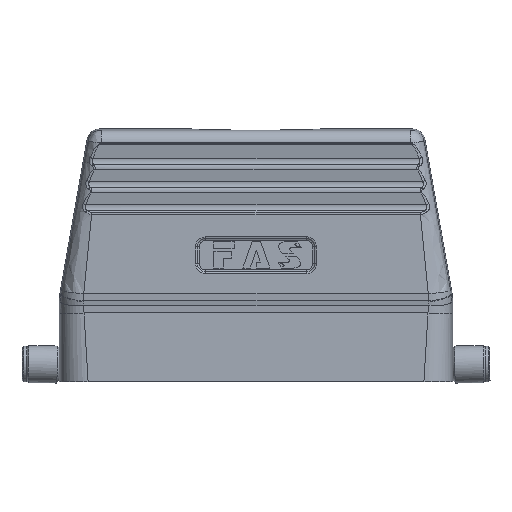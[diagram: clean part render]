
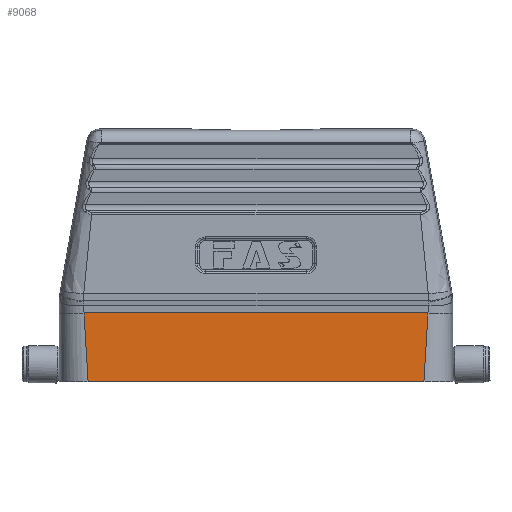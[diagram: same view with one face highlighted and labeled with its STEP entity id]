
A CAD part, front view. The second image highlights one B-rep face of the part: STEP entity #9068.
In plain terms, the highlighted planar face has unit normal (0, -1, 0).
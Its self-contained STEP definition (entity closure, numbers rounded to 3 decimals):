
#78 = CARTESIAN_POINT ( 'NONE',  ( -13.91, 17.399, 65.655 ) ) ;
#772 = B_SPLINE_CURVE_WITH_KNOTS ( 'NONE', 3,
 ( #3701, #7215, #12417, #21316, #1740 ),
 .UNSPECIFIED., .F., .F.,
 ( 4, 1, 4 ),
 ( 0., 0.652, 1. ),
 .UNSPECIFIED. ) ;
#870 = DIRECTION ( 'NONE',  ( 0., -1., 0. ) ) ;
#1740 = CARTESIAN_POINT ( 'NONE',  ( 66.641, 17.399, 53.299 ) ) ;
#1885 = CARTESIAN_POINT ( 'NONE',  ( -13.907, 17.399, 65.594 ) ) ;
#1963 = CARTESIAN_POINT ( 'NONE',  ( -13.669, 17.399, 61.464 ) ) ;
#3677 = CARTESIAN_POINT ( 'NONE',  ( -13.905, 17.399, 65.554 ) ) ;
#3701 = CARTESIAN_POINT ( 'NONE',  ( 67.597, 17.399, 69.588 ) ) ;
#3752 = CARTESIAN_POINT ( 'NONE',  ( -13.67, 17.399, 61.482 ) ) ;
#3838 = CARTESIAN_POINT ( 'NONE',  ( -13.961, 17.399, 66.656 ) ) ;
#4751 = EDGE_CURVE ( 'NONE', #22472, #9869, #15214, .T. ) ;
#5478 = CARTESIAN_POINT ( 'NONE',  ( -13.872, 17.399, 64.917 ) ) ;
#5550 = CARTESIAN_POINT ( 'NONE',  ( -13.747, 17.399, 62.737 ) ) ;
#6119 = ORIENTED_EDGE ( 'NONE', *, *, #16236, .F. ) ;
#6140 = CARTESIAN_POINT ( 'NONE',  ( -13.409, 17.399, 57.396 ) ) ;
#6225 = B_SPLINE_CURVE_WITH_KNOTS ( 'NONE', 3,
 ( #16071, #10778, #14290, #3838, #8980, #21459, #78, #1885, #3677, #16149, #5478, #19734, #5550, #9053, #14443, #21535, #12627, #3752, #1963, #16217, #16843, #20738, #11426, #6831, #23134, #10434, #11571, #18603, #22190, #6140, #8012, #18827, #13217, #18757 ),
 .UNSPECIFIED., .F., .F.,
 ( 4, 1, 1, 1, 1, 1, 2, 2, 1, 1, 1, 1, 1, 1, 1, 2, 2, 1, 1, 1, 1, 1, 1, 2, 2, 4 ),
 ( 0., 0.125, 0.188, 0.219, 0.234, 0.242, 0.246, 0.25, 0.375, 0.438, 0.469, 0.484, 0.492, 0.496, 0.498, 0.499, 0.5, 0.625, 0.688, 0.719, 0.734, 0.742, 0.746, 0.748, 0.75, 1. ),
 .UNSPECIFIED. ) ;
#6248 = PLANE ( 'NONE',  #13106 ) ;
#6658 = EDGE_CURVE ( 'NONE', #9869, #14766, #6225, .T. ) ;
#6831 = CARTESIAN_POINT ( 'NONE',  ( -13.499, 17.399, 58.78 ) ) ;
#7215 = CARTESIAN_POINT ( 'NONE',  ( 67.457, 17.399, 66.043 ) ) ;
#7403 = EDGE_CURVE ( 'NONE', #14766, #11501, #21591, .T. ) ;
#8012 = CARTESIAN_POINT ( 'NONE',  ( -13.408, 17.399, 57.381 ) ) ;
#8232 = CARTESIAN_POINT ( 'NONE',  ( -14.094, 17.399, 69.588 ) ) ;
#8980 = CARTESIAN_POINT ( 'NONE',  ( -13.932, 17.399, 66.081 ) ) ;
#9053 = CARTESIAN_POINT ( 'NONE',  ( -13.708, 17.399, 62.098 ) ) ;
#9068 = ADVANCED_FACE ( 'NONE', ( #17927 ), #6248, .T. ) ;
#9762 = CARTESIAN_POINT ( 'NONE',  ( -46.498, 17.399, 53.299 ) ) ;
#9869 = VERTEX_POINT ( 'NONE', #8232 ) ;
#10434 = CARTESIAN_POINT ( 'NONE',  ( -13.431, 17.399, 57.736 ) ) ;
#10778 = CARTESIAN_POINT ( 'NONE',  ( -14.064, 17.399, 68.874 ) ) ;
#10907 = CARTESIAN_POINT ( 'NONE',  ( 66.641, 17.399, 53.299 ) ) ;
#11426 = CARTESIAN_POINT ( 'NONE',  ( -13.58, 17.399, 60.042 ) ) ;
#11501 = VERTEX_POINT ( 'NONE', #10907 ) ;
#11571 = CARTESIAN_POINT ( 'NONE',  ( -13.419, 17.399, 57.554 ) ) ;
#12070 = DIRECTION ( 'NONE',  ( 1., 0., 0. ) ) ;
#12417 = CARTESIAN_POINT ( 'NONE',  ( 67.129, 17.399, 60.613 ) ) ;
#12627 = CARTESIAN_POINT ( 'NONE',  ( -13.673, 17.399, 61.524 ) ) ;
#12879 = EDGE_LOOP ( 'NONE', ( #21073, #19633, #15981, #6119 ) ) ;
#12907 = VECTOR ( 'NONE', #12070, 1000. ) ;
#13106 = AXIS2_PLACEMENT_3D ( 'NONE', #9762, #870, #15140 ) ;
#13217 = CARTESIAN_POINT ( 'NONE',  ( -13.219, 17.399, 54.488 ) ) ;
#13737 = CARTESIAN_POINT ( 'NONE',  ( 13.502, 17.399, 53.299 ) ) ;
#14202 = CARTESIAN_POINT ( 'NONE',  ( -46.498, 17.399, 69.588 ) ) ;
#14290 = CARTESIAN_POINT ( 'NONE',  ( -14.017, 17.399, 67.83 ) ) ;
#14443 = CARTESIAN_POINT ( 'NONE',  ( -13.688, 17.399, 61.771 ) ) ;
#14643 = VECTOR ( 'NONE', #23008, 1000. ) ;
#14766 = VERTEX_POINT ( 'NONE', #21394 ) ;
#15140 = DIRECTION ( 'NONE',  ( 0., 0., -1. ) ) ;
#15214 = LINE ( 'NONE', #14202, #14643 ) ;
#15981 = ORIENTED_EDGE ( 'NONE', *, *, #7403, .T. ) ;
#16071 = CARTESIAN_POINT ( 'NONE',  ( -14.094, 17.399, 69.588 ) ) ;
#16149 = CARTESIAN_POINT ( 'NONE',  ( -13.904, 17.399, 65.532 ) ) ;
#16217 = CARTESIAN_POINT ( 'NONE',  ( -13.668, 17.399, 61.453 ) ) ;
#16236 = EDGE_CURVE ( 'NONE', #22472, #11501, #772, .T. ) ;
#16843 = CARTESIAN_POINT ( 'NONE',  ( -13.668, 17.399, 61.445 ) ) ;
#17927 = FACE_OUTER_BOUND ( 'NONE', #12879, .T. ) ;
#18250 = CARTESIAN_POINT ( 'NONE',  ( 67.597, 17.399, 69.588 ) ) ;
#18603 = CARTESIAN_POINT ( 'NONE',  ( -13.413, 17.399, 57.462 ) ) ;
#18757 = CARTESIAN_POINT ( 'NONE',  ( -13.137, 17.399, 53.299 ) ) ;
#18827 = CARTESIAN_POINT ( 'NONE',  ( -13.309, 17.399, 55.844 ) ) ;
#19633 = ORIENTED_EDGE ( 'NONE', *, *, #6658, .T. ) ;
#19734 = CARTESIAN_POINT ( 'NONE',  ( -13.819, 17.399, 63.96 ) ) ;
#20738 = CARTESIAN_POINT ( 'NONE',  ( -13.636, 17.399, 60.932 ) ) ;
#21073 = ORIENTED_EDGE ( 'NONE', *, *, #4751, .T. ) ;
#21316 = CARTESIAN_POINT ( 'NONE',  ( 66.764, 17.399, 55.187 ) ) ;
#21394 = CARTESIAN_POINT ( 'NONE',  ( -13.137, 17.399, 53.299 ) ) ;
#21459 = CARTESIAN_POINT ( 'NONE',  ( -13.918, 17.399, 65.796 ) ) ;
#21535 = CARTESIAN_POINT ( 'NONE',  ( -13.678, 17.399, 61.607 ) ) ;
#21591 = LINE ( 'NONE', #13737, #12907 ) ;
#22190 = CARTESIAN_POINT ( 'NONE',  ( -13.411, 17.399, 57.422 ) ) ;
#22472 = VERTEX_POINT ( 'NONE', #18250 ) ;
#23008 = DIRECTION ( 'NONE',  ( -1., 0., 0. ) ) ;
#23134 = CARTESIAN_POINT ( 'NONE',  ( -13.454, 17.399, 58.094 ) ) ;
